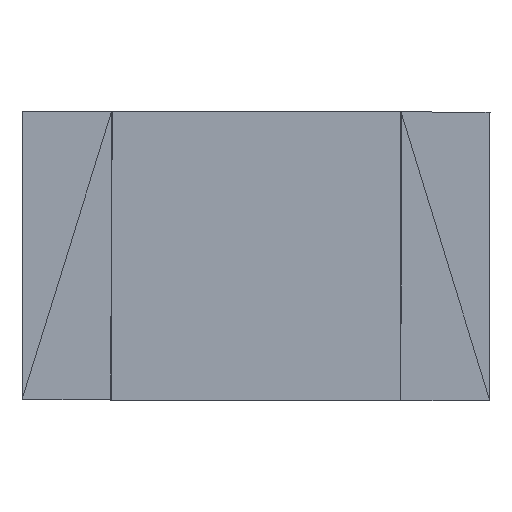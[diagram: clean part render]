
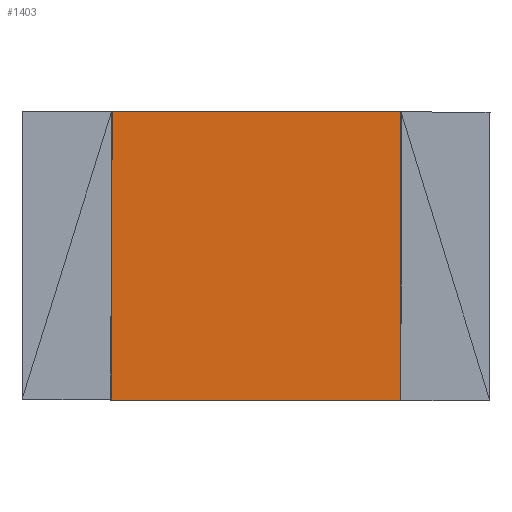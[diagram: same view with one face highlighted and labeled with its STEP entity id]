
A CAD part, top view. The second image highlights one B-rep face of the part: STEP entity #1403.
In plain terms, the highlighted planar face has unit normal (0, 0, 1).
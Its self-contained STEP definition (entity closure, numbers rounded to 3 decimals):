
#615=PLANE('',#13417);
#1403=ADVANCED_FACE('',(#2188),#615,.T.);
#2188=FACE_OUTER_BOUND('',#3055,.T.);
#3055=EDGE_LOOP('',(#5951,#5952,#5953,#5954));
#5951=ORIENTED_EDGE('',*,*,#8502,.F.);
#5952=ORIENTED_EDGE('',*,*,#8503,.F.);
#5953=ORIENTED_EDGE('',*,*,#8504,.F.);
#5954=ORIENTED_EDGE('',*,*,#8501,.F.);
#8501=EDGE_CURVE('',#11631,#11632,#10195,.T.);
#8502=EDGE_CURVE('',#11633,#11631,#10196,.T.);
#8503=EDGE_CURVE('',#11634,#11633,#10197,.T.);
#8504=EDGE_CURVE('',#11632,#11634,#10198,.T.);
#10195=B_SPLINE_CURVE_WITH_KNOTS('',1,(#27589,#27590),.UNSPECIFIED.,.F.,
 .F.,(2,2),(-1298.,0.),.UNSPECIFIED.);
#10196=B_SPLINE_CURVE_WITH_KNOTS('',1,(#27591,#27592),.UNSPECIFIED.,.F.,
 .F.,(2,2),(-1298.,0.),.UNSPECIFIED.);
#10197=B_SPLINE_CURVE_WITH_KNOTS('',1,(#27593,#27594),.UNSPECIFIED.,.F.,
 .F.,(2,2),(-1298.,0.),.UNSPECIFIED.);
#10198=B_SPLINE_CURVE_WITH_KNOTS('',1,(#27595,#27596),.UNSPECIFIED.,.F.,
 .F.,(2,2),(-1298.,0.),.UNSPECIFIED.);
#11631=VERTEX_POINT('',#27549);
#11632=VERTEX_POINT('',#27550);
#11633=VERTEX_POINT('',#27551);
#11634=VERTEX_POINT('',#27552);
#13417=AXIS2_PLACEMENT_3D('',#27329,#14020,$);
#14020=DIRECTION('',(0.,0.,1.));
#27329=CARTESIAN_POINT('',(-3637.519,-779.541,92.55));
#27549=CARTESIAN_POINT('',(-3507.485,-2210.307,92.264));
#27550=CARTESIAN_POINT('',(-3505.215,-912.309,92.524));
#27551=CARTESIAN_POINT('',(-2209.487,-2212.576,92.268));
#27552=CARTESIAN_POINT('',(-2207.217,-914.578,92.528));
#27589=CARTESIAN_POINT('',(-3507.485,-2210.307,92.264));
#27590=CARTESIAN_POINT('',(-3505.215,-912.309,92.524));
#27591=CARTESIAN_POINT('',(-2209.487,-2212.576,92.268));
#27592=CARTESIAN_POINT('',(-3507.485,-2210.307,92.264));
#27593=CARTESIAN_POINT('',(-2207.217,-914.578,92.528));
#27594=CARTESIAN_POINT('',(-2209.487,-2212.576,92.268));
#27595=CARTESIAN_POINT('',(-3505.215,-912.309,92.524));
#27596=CARTESIAN_POINT('',(-2207.217,-914.578,92.528));
